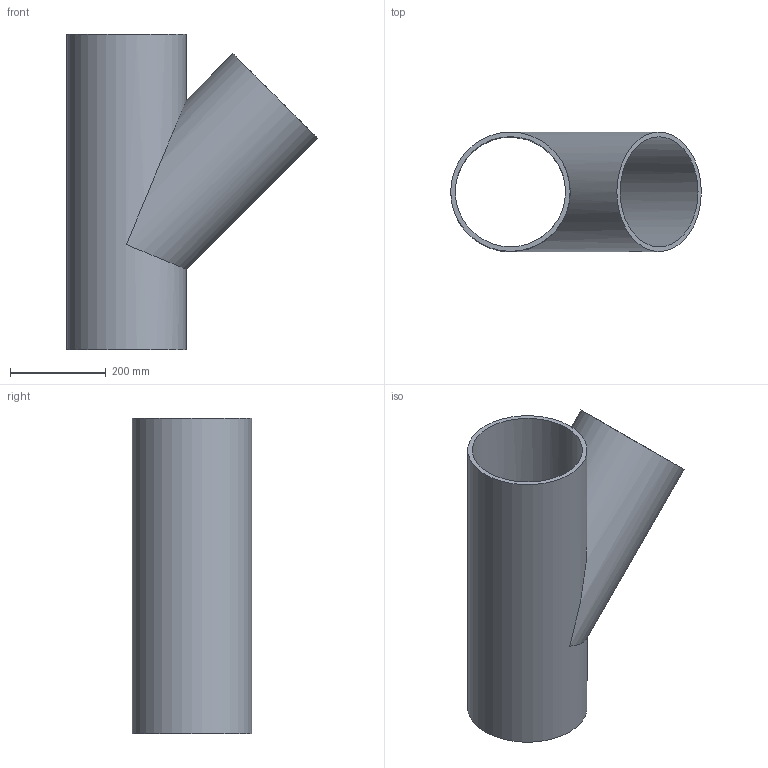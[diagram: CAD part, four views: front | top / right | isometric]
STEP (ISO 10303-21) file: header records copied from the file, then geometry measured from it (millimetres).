
FILE_DESCRIPTION(/* description */ (''),/* implementation_level */ '2;1');
FILE_NAME(/* name */ 'C:\Planerdaten\Export PLA\PRO_101557\stp\371147.stp',/* time_stamp */ '2021-09-30T15:09:40+02:00',/* author */ ('JANAN'),/* organization */ (''),/* preprocessor_version */ 'ST-DEVELOPER v16.13',/* originating_system */ 'Autodesk Inventor 2018',/* authorisation */ '');
FILE_SCHEMA (('AUTOMOTIVE_DESIGN { 1 0 10303 214 3 1 1 }'));
Length unit declared in the file: millimetre
Products named in the file (1): tmpA5DC.tmp
Bounding box: 524.52 x 250 x 660 mm (x, y, z)
Volume: 6469936.1 mm3; surface area: 1355620.7 mm2
Topology: 1 solids, 1 shells, 7 faces, 19 edges, 14 vertices
Faces by surface type: cylinder 4, plane 3
Full cylindrical faces by diameter (mm): 230.6 x2, 250 x2
Entity records: 228 total; most frequent: DIRECTION 36, CARTESIAN_POINT 28, ORIENTED_EDGE 20, AXIS2_PLACEMENT_3D 18, EDGE_LOOP 16, VERTEX_POINT 10, EDGE_CURVE 10, FACE_BOUND 9
